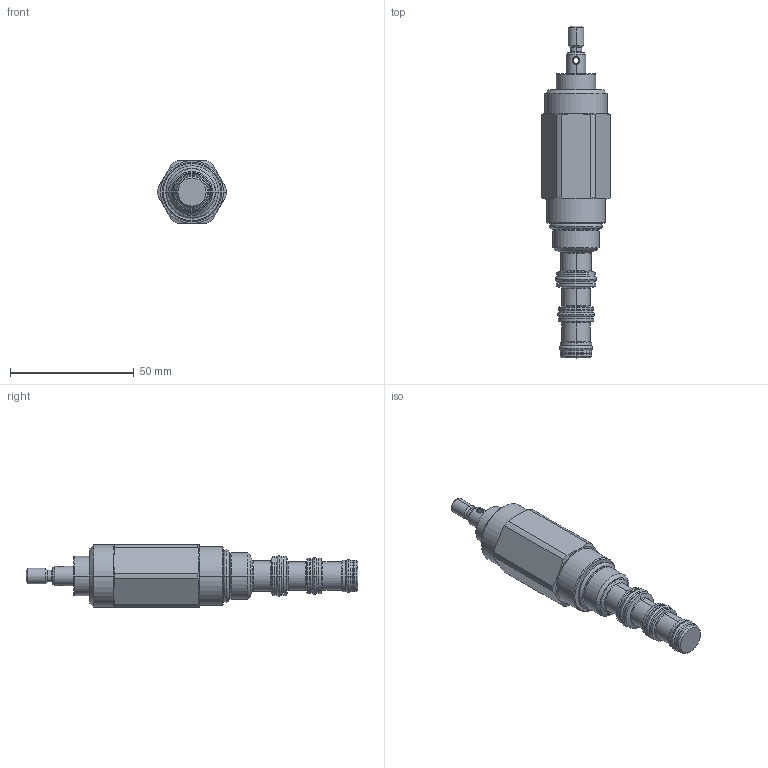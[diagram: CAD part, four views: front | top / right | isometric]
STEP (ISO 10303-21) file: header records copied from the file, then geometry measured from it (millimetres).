
FILE_DESCRIPTION((''),'2;1');
FILE_NAME('MP08-4XT','2009-02-04T',('jcs'),(''),'PRO/ENGINEER BY PARAMETRIC TECHNOLOGY CORPORATION, 2008010','PRO/ENGINEER BY PARAMETRIC TECHNOLOGY CORPORATION, 2008010','');
FILE_SCHEMA(('CONFIG_CONTROL_DESIGN'));
Length unit declared in the file: inch
Products named in the file (1): MP08-4XT
Bounding box: 28.04 x 134.29 x 25.4 mm (x, y, z)
Volume: 38961 mm3; surface area: 10962.3 mm2
Topology: 6 solids, 6 shells, 215 faces, 459 edges, 260 vertices
Faces by surface type: cylinder 64, cone 55, torus 40, revolution 32, plane 24
Entity records: 6593 total; most frequent: CARTESIAN_POINT 1808, DIRECTION 1087, ORIENTED_EDGE 918, AXIS2_PLACEMENT_3D 467, EDGE_CURVE 459, CIRCLE 284, VERTEX_POINT 260, EDGE_LOOP 231
